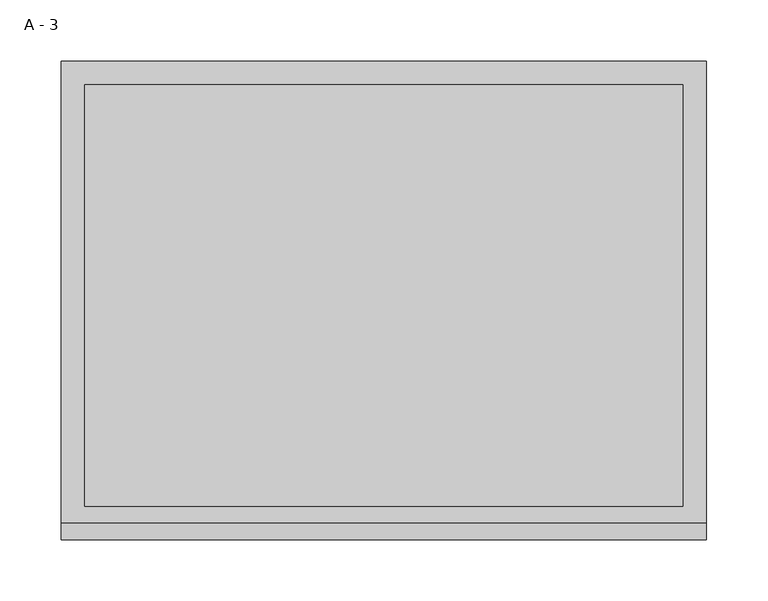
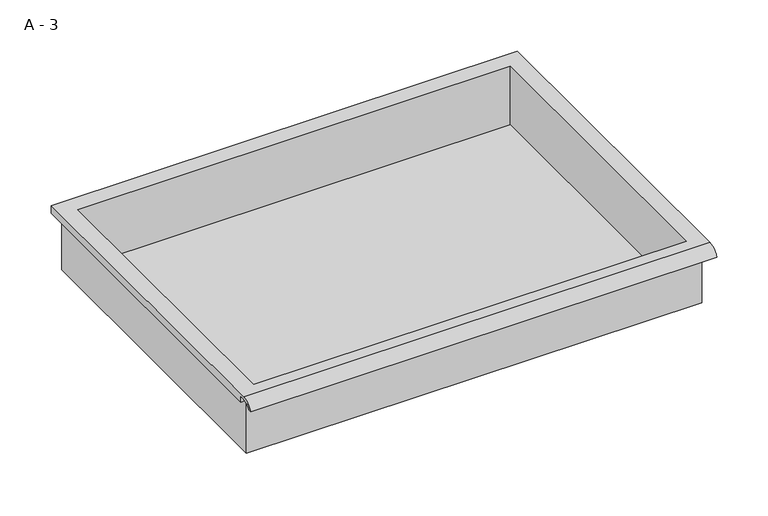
"""IFC4 building model written with IfcOpenShell, lengths in millimetres: furniture geometry, HermanMiller_CoStruc_CO207_Drawer : A - 3."""

from ifc_helpers import new_model, si_unit, frame, origin, place, context, project, spatial, polyline, circle_curve, source, transform, mapped, element, save
from ifc_brep_helpers import plane_surface, cylinder_surface, revolved_surface, advanced_brep


def a_3_03b68bd4(model_context):
    return source(origin(), model_context, "Body", "AdvancedBrep", [
        advanced_brep(
        [(-257.1076517, -176.2125, 927.0111), (257.2423483, -176.2125, 927.0111), (257.2423483, -176.2125, 990.5111), (263.5923483, -176.2125, 990.5111), (263.5923483, -176.2125, 996.8182341), (-263.4576517, -176.2125, 996.8182341), (-263.4576517, -176.2125, 990.5111), (-257.1076517, -176.2125, 990.5111), (257.2423483, 185.7375, 927.0111), (-257.1076517, 185.7375, 927.0111), (-257.1076517, 185.7375, 990.5111), (257.2423483, 185.7375, 990.5111), (263.5923483, -181.6070544, 1000.0361), (263.5923483, 195.2625, 1000.0361), (-263.4576517, 195.2625, 1000.0361), (-263.4576517, -181.6070544, 1000.0361), (244.5423483, -168.275, 1000.0361), (-244.4076517, -168.275, 1000.0361), (-244.4076517, 176.2125, 1000.0361), (244.5423483, 176.2125, 1000.0361), (263.5923483, -195.2625, 990.5111), (263.5923483, -191.8280601, 990.5111), (263.5923483, -180.4714815, 996.8182341), (263.5923483, 195.2625, 990.5111), (-263.4576517, 195.2625, 990.5111), (-263.4576517, -180.4714815, 996.8182341), (-263.4576517, -191.8280601, 990.5111), (-263.4576517, -195.2625, 990.5111), (-244.4076517, -168.275, 930.0372719), (244.5423483, -168.275, 930.0372719), (244.5423483, 176.2125, 930.0372719), (-244.4076517, 176.2125, 930.0372719)],
        [
            (0, 1),
            (1, 2),
            (2, 3),
            (3, 4),
            (4, 5),
            (5, 6),
            (6, 7),
            (7, 0),
            (8, 9),
            (9, 10),
            (10, 11),
            (11, 8),
            (0, 9),
            (8, 1),
            (11, 2),
            (12, 13),
            (13, 14),
            (14, 15),
            (15, 12),
            (16, 17),
            (17, 18),
            (18, 19),
            (19, 16),
            (7, 10),
            (12, 20, circle_curve(frame((263.5923483, -181.6070544, 985.4850859), z_axis=(1.0, 0.0, 0.0), x_axis=(0.0, 1.0, 0.0)), 14.5510141)),
            (20, 21),
            (21, 22, circle_curve(frame((263.5923483, -181.6070544, 985.4850859), z_axis=(-1.0, 0.0, 0.0), x_axis=(0.0, 1.0, 0.0)), 11.3898979)),
            (22, 4),
            (3, 23),
            (23, 13),
            (14, 24),
            (24, 6),
            (5, 25),
            (25, 26, circle_curve(frame((-263.4576517, -181.6070544, 985.4850859), z_axis=(1.0, 0.0, 0.0), x_axis=(0.0, 1.0, 0.0)), 11.3898979)),
            (26, 27),
            (27, 15, circle_curve(frame((-263.4576517, -181.6070544, 985.4850859), z_axis=(-1.0, 0.0, 0.0), x_axis=(0.0, 1.0, 0.0)), 14.5510141)),
            (27, 20),
            (26, 21),
            (25, 22),
            (24, 23),
            (28, 29),
            (29, 30),
            (30, 31),
            (31, 28),
            (28, 17),
            (16, 29),
            (19, 30),
            (18, 31),
        ],
        [
            plane_surface(frame((257.2423483, -176.2125, 927.0111), z_axis=(0.0, -1.0, 0.0), x_axis=(1.0, 0.0, 0.0))),
            plane_surface(frame((257.2423483, 185.7375, 927.0111), z_axis=(0.0, 1.0, 0.0), x_axis=(-1.0, 0.0, 0.0))),
            plane_surface(frame((-257.1076517, -176.2125, 927.0111), z_axis=(0.0, 0.0, -1.0), x_axis=(0.0, 1.0, 0.0))),
            plane_surface(frame((257.2423483, -176.2125, 927.0111), z_axis=(1.0, 0.0, 0.0), x_axis=(0.0, 1.0, 0.0))),
            plane_surface(frame((257.2423483, -176.2125, 1000.0361), z_axis=(0.0, 0.0, 1.0), x_axis=(0.0, 1.0, 0.0))),
            plane_surface(frame((-257.1076517, -176.2125, 1000.0361), z_axis=(-1.0, 0.0, 0.0), x_axis=(0.0, 1.0, 0.0))),
            plane_surface(frame((263.5923483, 195.2625, 1000.0361), z_axis=(1.0, 0.0, 0.0), x_axis=(0.0, -1.0, 0.0))),
            plane_surface(frame((-263.4576517, 195.2625, 1000.0361), z_axis=(-1.0, 0.0, 0.0), x_axis=(0.0, 1.0, 0.0))),
            cylinder_surface(frame((-263.4576517, -181.6070544, 985.4850859), z_axis=(1.0, 0.0, 0.0), x_axis=(0.0, 1.0, 0.0)), 14.5510141),
            plane_surface(frame((263.5923483, -195.2625, 990.5111), z_axis=(0.0, -7.172997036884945e-12, -1.0), x_axis=(-1.0, 0.0, 0.0))),
            revolved_surface(polyline([(-263.4576517, -170.21715650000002, 985.4850859), (263.59234829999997, -170.21715650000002, 985.4850859)]), (-263.4576517, -181.6070544, 985.4850859), (-1.0, 0.0, 0.0)),
            plane_surface(frame((263.5923483, -180.4714815, 996.8182341), z_axis=(0.0, -1.782962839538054e-11, -1.0), x_axis=(-1.0, 0.0, 0.0))),
            plane_surface(frame((263.5923483, -176.2125, 990.5111), z_axis=(0.0, 0.0, -1.0), x_axis=(-1.0, 0.0, 0.0))),
            plane_surface(frame((263.5923483, 195.2625, 990.5111), z_axis=(0.0, 1.0, 0.0), x_axis=(-1.0, 0.0, 0.0))),
            plane_surface(frame((244.5423483, -168.275, 930.0372719), z_axis=(0.0, 0.0, 1.0), x_axis=(-1.0, 0.0, 0.0))),
            plane_surface(frame((-244.4076517, -168.275, 1000.0361), z_axis=(0.0, 1.0, 0.0), x_axis=(0.0, 0.0, -1.0))),
            plane_surface(frame((244.5423483, -168.275, 1000.0361), z_axis=(-1.0, 0.0, 0.0), x_axis=(0.0, 0.0, -1.0))),
            plane_surface(frame((244.5423483, 176.2125, 1000.0361), z_axis=(0.0, -1.0, 0.0), x_axis=(0.0, 0.0, -1.0))),
            plane_surface(frame((-244.4076517, 176.2125, 1000.0361), z_axis=(1.0, 0.0, 0.0), x_axis=(0.0, 0.0, -1.0))),
        ],
        [
            (0, [[1, 2, 3, 4, 5, 6, 7, 8]]),
            (1, [[9, 10, 11, 12]]),
            (2, [[-1, 13, -9, 14]]),
            (3, [[-14, -12, 15, -2]]),
            (4, [[16, 17, 18, 19], [20, 21, 22, 23]]),
            (5, [[-13, -8, 24, -10]]),
            (6, [[-16, 25, 26, 27, 28, -4, 29, 30]]),
            (7, [[31, 32, -6, 33, 34, 35, 36, -18]]),
            (8, [[-25, -19, -36, 37]]),
            (9, [[-26, -37, -35, 38]]),
            (10, [[-27, -38, -34, 39]]),
            (11, [[-28, -39, -33, -5]]),
            (12, [[-29, -3, -15, -11, -24, -7, -32, 40]]),
            (13, [[-30, -40, -31, -17]]),
            (14, [[41, 42, 43, 44]]),
            (15, [[-41, 45, -20, 46]]),
            (16, [[-42, -46, -23, 47]]),
            (17, [[-43, -47, -22, 48]]),
            (18, [[-44, -48, -21, -45]]),
        ],
    ),
    ])


if __name__ == "__main__":
    model = new_model("IFC4")
    model_context = context("Model", 3, world=origin())
    ifc_project = project(units=[si_unit("LENGTHUNIT", "METRE", prefix="MILLI")], contexts=[model_context])
    site = spatial("IfcSite", under=ifc_project)
    building = spatial("IfcBuilding", under=site)
    placement = place(None, origin())
    a_3_shape = a_3_03b68bd4(model_context)
    element("IfcFurniture", 1, ObjectType="HermanMiller_CoStruc_CO207_Drawer : A - 3", at=placement, inside=building, context=model_context, shape_type="MappedRepresentation", body=[
        mapped(a_3_shape, transform((0.0, 0.0, 0.0), x_axis=(1.0, 0.0, 0.0), y_axis=(0.0, 1.0, 0.0), z_axis=(0.0, 0.0, 1.0))),
    ])
    save(model, "model.ifc")
